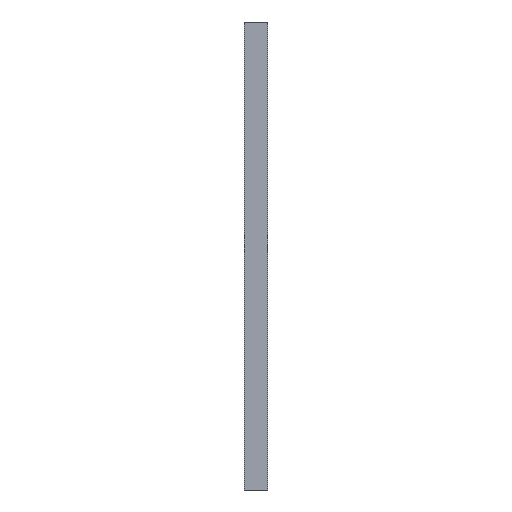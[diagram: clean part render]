
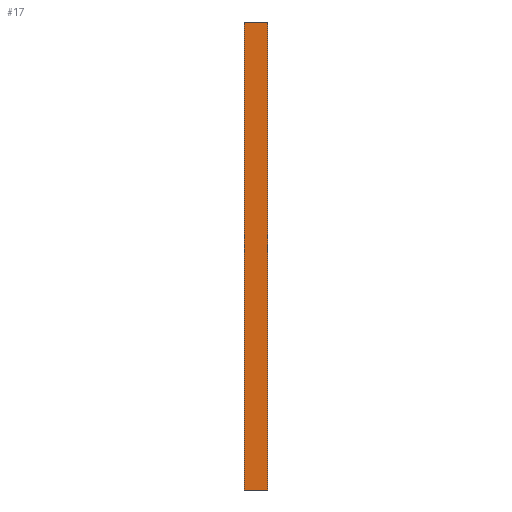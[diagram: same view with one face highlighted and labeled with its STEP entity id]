
A CAD part, left-side view. The second image highlights one B-rep face of the part: STEP entity #17.
In plain terms, the highlighted planar face has unit normal (-1, 0, 0).
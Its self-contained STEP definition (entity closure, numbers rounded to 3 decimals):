
#17 = ADVANCED_FACE('',(#18),#32,.F.);
#18 = FACE_BOUND('',#19,.F.);
#19 = EDGE_LOOP('',(#20,#55,#83,#111));
#20 = ORIENTED_EDGE('',*,*,#21,.F.);
#21 = EDGE_CURVE('',#22,#24,#26,.T.);
#22 = VERTEX_POINT('',#23);
#23 = CARTESIAN_POINT('',(-50.,338.,-50.));
#24 = VERTEX_POINT('',#25);
#25 = CARTESIAN_POINT('',(-50.,338.,50.));
#26 = SURFACE_CURVE('',#27,(#31,#43),.PCURVE_S1.);
#27 = LINE('',#28,#29);
#28 = CARTESIAN_POINT('',(-50.,338.,-50.));
#29 = VECTOR('',#30,1.);
#30 = DIRECTION('',(0.,0.,1.));
#31 = PCURVE('',#32,#37);
#32 = PLANE('',#33);
#33 = AXIS2_PLACEMENT_3D('',#34,#35,#36);
#34 = CARTESIAN_POINT('',(-50.,338.,-50.));
#35 = DIRECTION('',(1.,0.,-0.));
#36 = DIRECTION('',(0.,0.,1.));
#37 = DEFINITIONAL_REPRESENTATION('',(#38),#42);
#38 = LINE('',#39,#40);
#39 = CARTESIAN_POINT('',(0.,0.));
#40 = VECTOR('',#41,1.);
#41 = DIRECTION('',(1.,0.));
#42 = ( GEOMETRIC_REPRESENTATION_CONTEXT(2) 
PARAMETRIC_REPRESENTATION_CONTEXT() REPRESENTATION_CONTEXT('2D SPACE',''
  ) );
#43 = PCURVE('',#44,#49);
#44 = PLANE('',#45);
#45 = AXIS2_PLACEMENT_3D('',#46,#47,#48);
#46 = CARTESIAN_POINT('',(-50.,338.,-50.));
#47 = DIRECTION('',(-0.,1.,0.));
#48 = DIRECTION('',(0.,0.,1.));
#49 = DEFINITIONAL_REPRESENTATION('',(#50),#54);
#50 = LINE('',#51,#52);
#51 = CARTESIAN_POINT('',(0.,0.));
#52 = VECTOR('',#53,1.);
#53 = DIRECTION('',(1.,0.));
#54 = ( GEOMETRIC_REPRESENTATION_CONTEXT(2) 
PARAMETRIC_REPRESENTATION_CONTEXT() REPRESENTATION_CONTEXT('2D SPACE',''
  ) );
#55 = ORIENTED_EDGE('',*,*,#56,.T.);
#56 = EDGE_CURVE('',#22,#57,#59,.T.);
#57 = VERTEX_POINT('',#58);
#58 = CARTESIAN_POINT('',(-50.,343.,-50.));
#59 = SURFACE_CURVE('',#60,(#64,#71),.PCURVE_S1.);
#60 = LINE('',#61,#62);
#61 = CARTESIAN_POINT('',(-50.,338.,-50.));
#62 = VECTOR('',#63,1.);
#63 = DIRECTION('',(-0.,1.,0.));
#64 = PCURVE('',#32,#65);
#65 = DEFINITIONAL_REPRESENTATION('',(#66),#70);
#66 = LINE('',#67,#68);
#67 = CARTESIAN_POINT('',(0.,0.));
#68 = VECTOR('',#69,1.);
#69 = DIRECTION('',(0.,-1.));
#70 = ( GEOMETRIC_REPRESENTATION_CONTEXT(2) 
PARAMETRIC_REPRESENTATION_CONTEXT() REPRESENTATION_CONTEXT('2D SPACE',''
  ) );
#71 = PCURVE('',#72,#77);
#72 = PLANE('',#73);
#73 = AXIS2_PLACEMENT_3D('',#74,#75,#76);
#74 = CARTESIAN_POINT('',(-50.,338.,-50.));
#75 = DIRECTION('',(0.,0.,1.));
#76 = DIRECTION('',(1.,0.,-0.));
#77 = DEFINITIONAL_REPRESENTATION('',(#78),#82);
#78 = LINE('',#79,#80);
#79 = CARTESIAN_POINT('',(0.,0.));
#80 = VECTOR('',#81,1.);
#81 = DIRECTION('',(0.,1.));
#82 = ( GEOMETRIC_REPRESENTATION_CONTEXT(2) 
PARAMETRIC_REPRESENTATION_CONTEXT() REPRESENTATION_CONTEXT('2D SPACE',''
  ) );
#83 = ORIENTED_EDGE('',*,*,#84,.T.);
#84 = EDGE_CURVE('',#57,#85,#87,.T.);
#85 = VERTEX_POINT('',#86);
#86 = CARTESIAN_POINT('',(-50.,343.,50.));
#87 = SURFACE_CURVE('',#88,(#92,#99),.PCURVE_S1.);
#88 = LINE('',#89,#90);
#89 = CARTESIAN_POINT('',(-50.,343.,-50.));
#90 = VECTOR('',#91,1.);
#91 = DIRECTION('',(0.,0.,1.));
#92 = PCURVE('',#32,#93);
#93 = DEFINITIONAL_REPRESENTATION('',(#94),#98);
#94 = LINE('',#95,#96);
#95 = CARTESIAN_POINT('',(0.,-5.));
#96 = VECTOR('',#97,1.);
#97 = DIRECTION('',(1.,0.));
#98 = ( GEOMETRIC_REPRESENTATION_CONTEXT(2) 
PARAMETRIC_REPRESENTATION_CONTEXT() REPRESENTATION_CONTEXT('2D SPACE',''
  ) );
#99 = PCURVE('',#100,#105);
#100 = PLANE('',#101);
#101 = AXIS2_PLACEMENT_3D('',#102,#103,#104);
#102 = CARTESIAN_POINT('',(-50.,343.,-50.));
#103 = DIRECTION('',(-0.,1.,0.));
#104 = DIRECTION('',(0.,0.,1.));
#105 = DEFINITIONAL_REPRESENTATION('',(#106),#110);
#106 = LINE('',#107,#108);
#107 = CARTESIAN_POINT('',(0.,0.));
#108 = VECTOR('',#109,1.);
#109 = DIRECTION('',(1.,0.));
#110 = ( GEOMETRIC_REPRESENTATION_CONTEXT(2) 
PARAMETRIC_REPRESENTATION_CONTEXT() REPRESENTATION_CONTEXT('2D SPACE',''
  ) );
#111 = ORIENTED_EDGE('',*,*,#112,.F.);
#112 = EDGE_CURVE('',#24,#85,#113,.T.);
#113 = SURFACE_CURVE('',#114,(#118,#125),.PCURVE_S1.);
#114 = LINE('',#115,#116);
#115 = CARTESIAN_POINT('',(-50.,338.,50.));
#116 = VECTOR('',#117,1.);
#117 = DIRECTION('',(-0.,1.,0.));
#118 = PCURVE('',#32,#119);
#119 = DEFINITIONAL_REPRESENTATION('',(#120),#124);
#120 = LINE('',#121,#122);
#121 = CARTESIAN_POINT('',(100.,0.));
#122 = VECTOR('',#123,1.);
#123 = DIRECTION('',(0.,-1.));
#124 = ( GEOMETRIC_REPRESENTATION_CONTEXT(2) 
PARAMETRIC_REPRESENTATION_CONTEXT() REPRESENTATION_CONTEXT('2D SPACE',''
  ) );
#125 = PCURVE('',#126,#131);
#126 = PLANE('',#127);
#127 = AXIS2_PLACEMENT_3D('',#128,#129,#130);
#128 = CARTESIAN_POINT('',(-50.,338.,50.));
#129 = DIRECTION('',(0.,0.,1.));
#130 = DIRECTION('',(1.,0.,-0.));
#131 = DEFINITIONAL_REPRESENTATION('',(#132),#136);
#132 = LINE('',#133,#134);
#133 = CARTESIAN_POINT('',(0.,0.));
#134 = VECTOR('',#135,1.);
#135 = DIRECTION('',(0.,1.));
#136 = ( GEOMETRIC_REPRESENTATION_CONTEXT(2) 
PARAMETRIC_REPRESENTATION_CONTEXT() REPRESENTATION_CONTEXT('2D SPACE',''
  ) );
